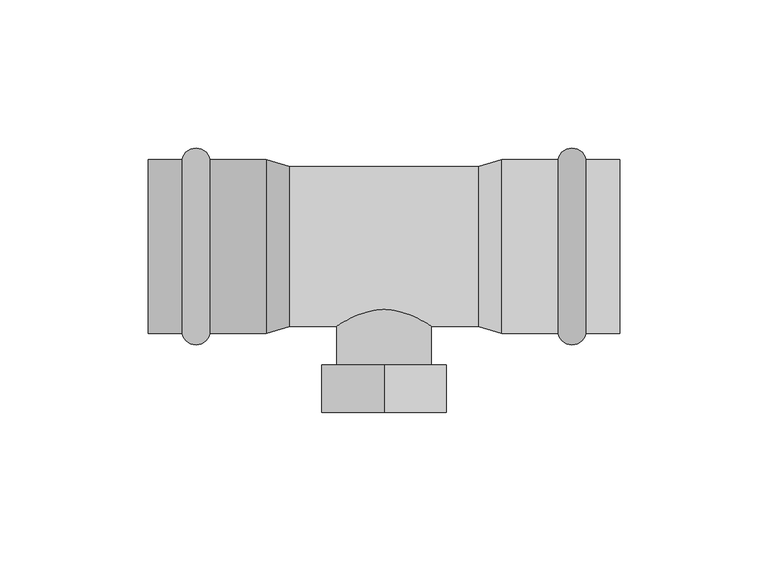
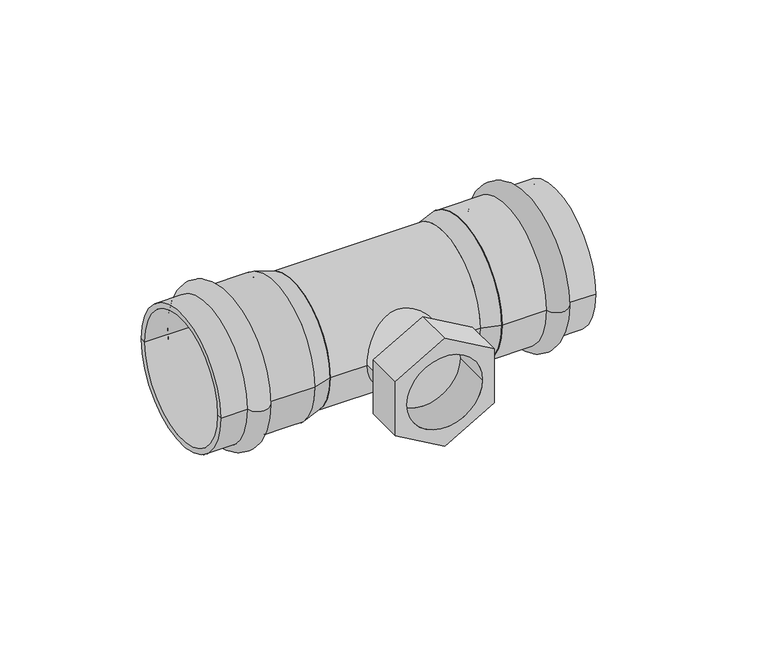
"""IFC4 building model written with IfcOpenShell, lengths in millimetres: pipe fitting geometry, VALTEC_VTi.932.I_Тройник с переходом на внутреннюю резьбу нержавеющая сталь : VTi.932.I."""

from ifc_helpers import new_model, si_unit, point, frame, origin, origin_2d, place, context, project, spatial, polyline, circle_curve, ellipse_curve, trimmed, segment, composite_curve, outline, extrude, source, transform, mapped, element, save
from ifc_brep_helpers import plane_surface, cylinder_surface, revolved_surface, advanced_brep


def pipe_fitting_c9e90afb(model_context):
    return source(origin(), model_context, "Body", "SolidModel", [
        advanced_brep(
        [(68.1148701, 29.3, 0.0), (68.1148701, -29.3, 0.0), (58.6851299, -29.3, 0.0), (58.6851299, 29.3, 0.0), (79.5, 29.3, 0.0), (79.5, -29.3, 0.0), (79.5, 27.0, 0.0), (79.5, -27.0, 0.0), (39.75, 27.0, 0.0), (39.75, -27.0, 0.0), (39.75, 29.3, 0.0), (39.75, -29.3, 0.0)],
        [
            (0, 1, circle_curve(frame((68.1148701, 0.0, 0.0), z_axis=(-1.0, 0.0, 0.0), x_axis=(0.0, -1.0, 0.0)), 29.3)),
            (1, 2, circle_curve(frame((63.4, -28.4, 0.0), z_axis=(0.0, 0.0, -1.0), x_axis=(-1.0, 0.0, 0.0)), 4.8)),
            (2, 3, circle_curve(frame((58.6851299, 0.0, 0.0), z_axis=(1.0, 0.0, 0.0), x_axis=(0.0, -1.0, 0.0)), 29.3)),
            (3, 0, circle_curve(frame((63.4, 28.4, 0.0), z_axis=(0.0, 0.0, -1.0), x_axis=(-1.0, 0.0, 0.0)), 4.8)),
            (1, 0, circle_curve(frame((68.1148701, 0.0, 0.0), z_axis=(-1.0, 0.0, 0.0), x_axis=(0.0, -1.0, 0.0)), 29.3)),
            (3, 2, circle_curve(frame((58.6851299, 0.0, 0.0), z_axis=(1.0, 0.0, 0.0), x_axis=(0.0, -1.0, 0.0)), 29.3)),
            (4, 5, circle_curve(frame((79.5, 0.0, 0.0), z_axis=(-1.0, 0.0, 0.0), x_axis=(0.0, -1.0, 0.0)), 29.3)),
            (5, 1),
            (0, 4),
            (5, 4, circle_curve(frame((79.5, 0.0, 0.0), z_axis=(-1.0, 0.0, 0.0), x_axis=(0.0, -1.0, 0.0)), 29.3)),
            (6, 7, circle_curve(frame((79.5, 0.0, 0.0), z_axis=(-1.0, 0.0, 0.0), x_axis=(0.0, -1.0, 0.0)), 27.0)),
            (7, 5),
            (4, 6),
            (7, 6, circle_curve(frame((79.5, 0.0, 0.0), z_axis=(-1.0, 0.0, 0.0), x_axis=(0.0, -1.0, 0.0)), 27.0)),
            (8, 9, circle_curve(frame((39.75, 0.0, 0.0), z_axis=(-1.0, 0.0, 0.0), x_axis=(0.0, -1.0, 0.0)), 27.0)),
            (9, 7),
            (6, 8),
            (9, 8, circle_curve(frame((39.75, 0.0, 0.0), z_axis=(-1.0, 0.0, 0.0), x_axis=(0.0, -1.0, 0.0)), 27.0)),
            (10, 11, circle_curve(frame((39.75, 0.0, 0.0), z_axis=(-1.0, 0.0, 0.0), x_axis=(0.0, -1.0, 0.0)), 29.3)),
            (11, 9),
            (8, 10),
            (11, 10, circle_curve(frame((39.75, 0.0, 0.0), z_axis=(-1.0, 0.0, 0.0), x_axis=(0.0, -1.0, 0.0)), 29.3)),
            (2, 11),
            (10, 3),
        ],
        [
            revolved_surface(trimmed(ellipse_curve(frame((63.4, -28.4, 0.0), z_axis=(0.0, 0.0, 1.0), x_axis=(-1.0, 0.0, 0.0)), 4.8, 4.8), [point((58.6851299, -29.3, 0.0))], [point((68.1148701, -29.3, 0.0))], True, "CARTESIAN"), (83.0364426, 0.0, 0.0), (1.0, 0.0, 0.0)),
            cylinder_surface(frame((83.0364426, 0.0, 0.0), z_axis=(1.0, 0.0, 0.0), x_axis=(0.0, -1.0, 0.0)), 29.3),
            plane_surface(frame((79.5, 0.0, 0.0), z_axis=(1.0, 0.0, 0.0), x_axis=(0.0, -1.0, 0.0))),
            revolved_surface(polyline([(79.5, -27.0, 0.0), (39.75, -27.0, 0.0)]), (83.0364426, 0.0, 0.0), (1.0, 0.0, 0.0)),
            plane_surface(frame((39.75, 0.0, 0.0), z_axis=(-1.0, 0.0, 0.0), x_axis=(0.0, -1.0, 0.0))),
        ],
        [
            (0, [[1, 2, 3, 4]]),
            (0, [[5, -4, 6, -2]]),
            (1, [[7, 8, -1, 9]]),
            (1, [[10, -9, -5, -8]]),
            (2, [[11, 12, -7, 13]]),
            (2, [[14, -13, -10, -12]]),
            (3, [[15, 16, -11, 17]]),
            (3, [[18, -17, -14, -16]]),
            (4, [[19, 20, -15, 21]]),
            (4, [[22, -21, -18, -20]]),
            (1, [[-3, 23, -19, 24]]),
            (1, [[-6, -24, -22, -23]]),
        ],
    ),
        advanced_brep(
        [(-68.1148701, -29.3, 0.0), (-68.1148701, 29.3, 0.0), (-58.6851299, 29.3, 0.0), (-58.6851299, -29.3, 0.0), (-79.5, -29.3, 0.0), (-79.5, 29.3, 0.0), (-79.5, -27.0, 0.0), (-79.5, 27.0, 0.0), (-39.75, -27.0, 0.0), (-39.75, 27.0, 0.0), (-39.75, -29.3, 0.0), (-39.75, 29.3, 0.0)],
        [
            (0, 1, circle_curve(frame((-68.1148701, 0.0, 0.0), z_axis=(1.0, 0.0, 0.0), x_axis=(0.0, 1.0, 0.0)), 29.3)),
            (1, 2, circle_curve(frame((-63.4, 28.4, 0.0), z_axis=(0.0, 0.0, -1.0), x_axis=(1.0, 0.0, 0.0)), 4.8)),
            (2, 3, circle_curve(frame((-58.6851299, 0.0, 0.0), z_axis=(-1.0, 0.0, 0.0), x_axis=(0.0, 1.0, 0.0)), 29.3)),
            (3, 0, circle_curve(frame((-63.4, -28.4, 0.0), z_axis=(0.0, 0.0, -1.0), x_axis=(1.0, 0.0, 0.0)), 4.8)),
            (1, 0, circle_curve(frame((-68.1148701, 0.0, 0.0), z_axis=(1.0, 0.0, 0.0), x_axis=(0.0, 1.0, 0.0)), 29.3)),
            (3, 2, circle_curve(frame((-58.6851299, 0.0, 0.0), z_axis=(-1.0, 0.0, 0.0), x_axis=(0.0, 1.0, 0.0)), 29.3)),
            (4, 5, circle_curve(frame((-79.5, 0.0, 0.0), z_axis=(1.0, 0.0, 0.0), x_axis=(0.0, 1.0, 0.0)), 29.3)),
            (5, 1),
            (0, 4),
            (5, 4, circle_curve(frame((-79.5, 0.0, 0.0), z_axis=(1.0, 0.0, 0.0), x_axis=(0.0, 1.0, 0.0)), 29.3)),
            (6, 7, circle_curve(frame((-79.5, 0.0, 0.0), z_axis=(1.0, 0.0, 0.0), x_axis=(0.0, 1.0, 0.0)), 27.0)),
            (7, 5),
            (4, 6),
            (7, 6, circle_curve(frame((-79.5, 0.0, 0.0), z_axis=(1.0, 0.0, 0.0), x_axis=(0.0, 1.0, 0.0)), 27.0)),
            (8, 9, circle_curve(frame((-39.75, 0.0, 0.0), z_axis=(1.0, 0.0, 0.0), x_axis=(0.0, 1.0, 0.0)), 27.0)),
            (9, 7),
            (6, 8),
            (9, 8, circle_curve(frame((-39.75, 0.0, 0.0), z_axis=(1.0, 0.0, 0.0), x_axis=(0.0, 1.0, 0.0)), 27.0)),
            (10, 11, circle_curve(frame((-39.75, 0.0, 0.0), z_axis=(1.0, 0.0, 0.0), x_axis=(0.0, 1.0, 0.0)), 29.3)),
            (11, 9),
            (8, 10),
            (11, 10, circle_curve(frame((-39.75, 0.0, 0.0), z_axis=(1.0, 0.0, 0.0), x_axis=(0.0, 1.0, 0.0)), 29.3)),
            (2, 11),
            (10, 3),
        ],
        [
            revolved_surface(trimmed(ellipse_curve(frame((-63.4, 28.4, 0.0), z_axis=(0.0, 0.0, 1.0), x_axis=(1.0, 0.0, 0.0)), 4.8, 4.8), [point((-58.6851299, 29.3, 0.0))], [point((-68.1148701, 29.3, 0.0))], True, "CARTESIAN"), (-83.0364426, 0.0, 0.0), (-1.0, 0.0, 0.0)),
            cylinder_surface(frame((-83.0364426, 0.0, 0.0), z_axis=(-1.0, 0.0, 0.0), x_axis=(0.0, 1.0, 0.0)), 29.3),
            plane_surface(frame((-79.5, 0.0, 0.0), z_axis=(-1.0, 0.0, 0.0), x_axis=(0.0, 1.0, 0.0))),
            revolved_surface(polyline([(-79.5, 27.0, 0.0), (-39.75, 27.0, 0.0)]), (-83.0364426, 0.0, 0.0), (-1.0, 0.0, 0.0)),
            plane_surface(frame((-39.75, 0.0, 0.0), z_axis=(1.0, 0.0, 0.0), x_axis=(0.0, 1.0, 0.0))),
        ],
        [
            (0, [[1, 2, 3, 4]]),
            (0, [[5, -4, 6, -2]]),
            (1, [[7, 8, -1, 9]]),
            (1, [[10, -9, -5, -8]]),
            (2, [[11, 12, -7, 13]]),
            (2, [[14, -13, -10, -12]]),
            (3, [[15, 16, -11, 17]]),
            (3, [[18, -17, -14, -16]]),
            (4, [[19, 20, -15, 21]]),
            (4, [[22, -21, -18, -20]]),
            (1, [[-3, 23, -19, 24]]),
            (1, [[-6, -24, -22, -23]]),
        ],
    ),
        extrude(outline(polyline([(24.2487113, 0.0), (12.1243557, -21.0), (-12.1243557, -21.0), (-24.2487113, 0.0), (-12.1243557, 21.0), (12.1243557, 21.0), (24.2487113, 0.0)]), holes=[composite_curve([segment(trimmed(circle_curve(origin_2d(), 16.0), [point((0.0, -16.0))], [point((0.0, 16.0))], True, "CARTESIAN"), True, "CONTINUOUS"), segment(trimmed(circle_curve(origin_2d(), 16.0), [point((0.0, 16.0))], [point((0.0, -16.0))], True, "CARTESIAN"), True, "CONTINUOUS")], self_intersect=False)]), frame((0.0, -56.0, 0.0), z_axis=(0.0, 1.0, 0.0), x_axis=(0.0, 0.0, 1.0)), (0.0, 0.0, 1.0), 16.0),
        extrude(outline(composite_curve([segment(trimmed(circle_curve(origin_2d(), 16.0), [point((0.0, -16.0))], [point((0.0, 16.0))], False, "CARTESIAN"), True, "CONTINUOUS"), segment(trimmed(circle_curve(origin_2d(), 16.0), [point((0.0, 16.0))], [point((0.0, -16.0))], False, "CARTESIAN"), True, "CONTINUOUS")], self_intersect=False)), frame((0.0, -40.0, 0.0), z_axis=(0.0, 1.0, 0.0), x_axis=(0.0, 0.0, 1.0)), (0.0, 0.0, 1.0), 40.0),
        extrude(outline(composite_curve([segment(trimmed(circle_curve(origin_2d(), 27.0), [point((-27.0, 0.0))], [point((27.0, 0.0))], False, "CARTESIAN"), True, "CONTINUOUS"), segment(trimmed(circle_curve(origin_2d(), 27.0), [point((27.0, 0.0))], [point((-27.0, 0.0))], False, "CARTESIAN"), True, "CONTINUOUS")], self_intersect=False)), frame((-31.8, 0.0, 0.0), z_axis=(1.0, 0.0, 0.0), x_axis=(0.0, 1.0, 0.0)), (0.0, 0.0, 1.0), 63.6),
        advanced_brep(
        [(39.75, -29.3, 0.0), (39.75, 29.3, 0.0), (31.8, -27.0, 0.0), (31.8, 27.0, 0.0)],
        [
            (0, 1, circle_curve(frame((39.75, 0.0, 0.0), z_axis=(1.0, 0.0, 0.0), x_axis=(0.0, -1.0, 0.0)), 29.3)),
            (1, 0, circle_curve(frame((39.75, 0.0, 0.0), z_axis=(1.0, 0.0, 0.0), x_axis=(0.0, 1.0, 0.0)), 29.3)),
            (2, 3, circle_curve(frame((31.8, 0.0, 0.0), z_axis=(-1.0, 0.0, 0.0), x_axis=(0.0, 1.0, 0.0)), 27.0)),
            (3, 2, circle_curve(frame((31.8, 0.0, 0.0), z_axis=(-1.0, 0.0, 0.0), x_axis=(0.0, -1.0, 0.0)), 27.0)),
            (3, 1),
            (0, 2),
        ],
        [
            plane_surface(frame((39.75, 0.0, 0.0), z_axis=(1.0, 0.0, 0.0), x_axis=(0.0, 0.0, 1.0))),
            plane_surface(frame((31.8, 0.0, 0.0), z_axis=(-1.0, 0.0, 0.0), x_axis=(0.0, 0.0, 1.0))),
            revolved_surface(polyline([(31.800000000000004, 27.000000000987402, 0.0), (39.74999999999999, 29.3, 0.0)]), (-61.526087, 0.0, 0.0), (1.0, 0.0, 0.0)),
            revolved_surface(polyline([(31.800000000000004, -27.000000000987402, 0.0), (39.74999999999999, -29.3, 0.0)]), (-61.526087, 0.0, 0.0), (1.0, 0.0, 0.0)),
        ],
        [
            (0, [[1, 2]]),
            (1, [[3, 4]]),
            (2, [[-4, 5, -1, 6]]),
            (3, [[-3, -6, -2, -5]]),
        ],
    ),
        advanced_brep(
        [(-39.75, -29.3, 0.0), (-39.75, 29.3, 0.0), (-31.8, -27.0, 0.0), (-31.8, 27.0, 0.0)],
        [
            (0, 1, circle_curve(frame((-39.75, 0.0, 0.0), z_axis=(-1.0, 0.0, 0.0), x_axis=(0.0, -1.0, 0.0)), 29.3)),
            (1, 0, circle_curve(frame((-39.75, 0.0, 0.0), z_axis=(-1.0, 0.0, 0.0), x_axis=(0.0, 1.0, 0.0)), 29.3)),
            (2, 3, circle_curve(frame((-31.8, 0.0, 0.0), z_axis=(1.0, 0.0, 0.0), x_axis=(0.0, 1.0, 0.0)), 27.0)),
            (3, 2, circle_curve(frame((-31.8, 0.0, 0.0), z_axis=(1.0, 0.0, 0.0), x_axis=(0.0, -1.0, 0.0)), 27.0)),
            (2, 0),
            (1, 3),
        ],
        [
            plane_surface(frame((-39.75, 0.0, 0.0), z_axis=(-1.0, 0.0, 0.0), x_axis=(0.0, 0.0, -1.0))),
            plane_surface(frame((-31.8, 0.0, 0.0), z_axis=(1.0, 0.0, 0.0), x_axis=(0.0, 0.0, -1.0))),
            revolved_surface(polyline([(-31.800000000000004, -27.000000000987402, 0.0), (-39.74999999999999, -29.3, 0.0)]), (61.526087, 0.0, 0.0), (-1.0, 0.0, 0.0)),
            revolved_surface(polyline([(-31.800000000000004, 27.000000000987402, 0.0), (-39.74999999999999, 29.3, 0.0)]), (61.526087, 0.0, 0.0), (-1.0, 0.0, 0.0)),
        ],
        [
            (0, [[1, 2]]),
            (1, [[3, 4]]),
            (2, [[-3, 5, -2, 6]]),
            (3, [[-4, -6, -1, -5]]),
        ],
    ),
    ])


if __name__ == "__main__":
    model = new_model("IFC4")
    model_context = context("Model", 3, world=origin())
    ifc_project = project(units=[si_unit("LENGTHUNIT", "METRE", prefix="MILLI")], contexts=[model_context])
    site = spatial("IfcSite", under=ifc_project)
    building = spatial("IfcBuilding", under=site)
    placement = place(None, origin())
    pipe_fitting_shape = pipe_fitting_c9e90afb(model_context)
    element("IfcPipeFitting", 1, ObjectType="VALTEC_VTi.932.I_Тройник с переходом на внутреннюю резьбу нержавеющая сталь : VTi.932.I", at=placement, inside=building, context=model_context, shape_type="MappedRepresentation", body=[
        mapped(pipe_fitting_shape, transform((0.0, 0.0, 0.0), x_axis=(1.0, 0.0, 0.0), y_axis=(0.0, 1.0, 0.0), z_axis=(0.0, 0.0, 1.0))),
    ])
    save(model, "model.ifc")
